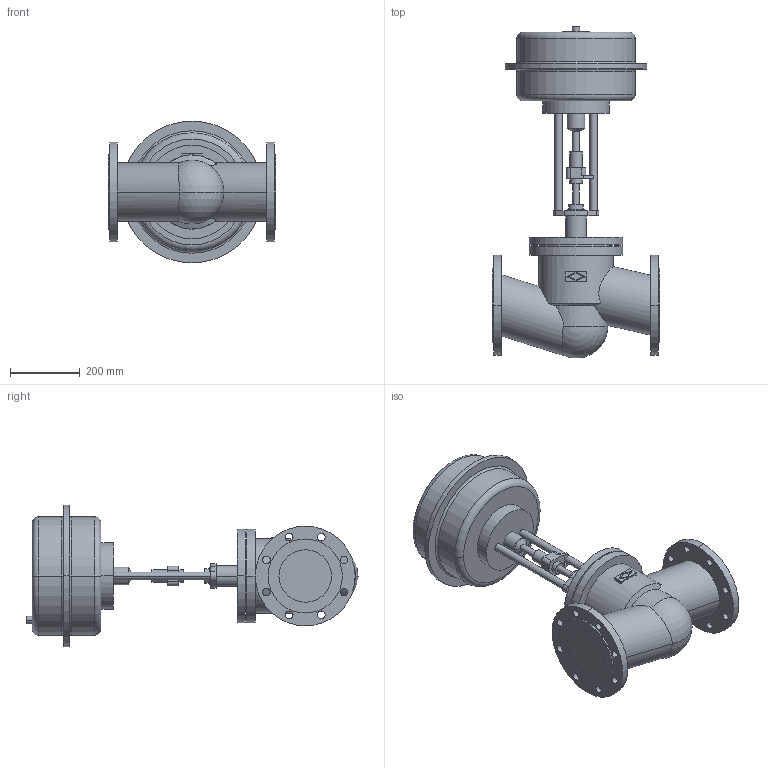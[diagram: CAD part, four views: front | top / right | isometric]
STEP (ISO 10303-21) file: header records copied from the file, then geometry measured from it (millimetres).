
FILE_DESCRIPTION(('OneSpaceDesigner STEP Export'),'2;1');
FILE_NAME('c000003114.stp','2007-01-16T10:28:10',(''),(''),'OneSpace Designer STEP processor for AP214 (Solid Model)','OneSpace Designer 14.00B 27-May-2006 (C) CoCreate Software GmbH','');
FILE_SCHEMA(('AUTOMOTIVE_DESIGN { 1 0 10303 214 1 1 1 1 }'));
Length unit declared in the file: millimetre
Products named in the file (2): 1; 2
Bounding box: 480 x 948.77 x 405 mm (x, y, z)
Volume: 39604202.1 mm3; surface area: 1294392.8 mm2
Topology: 2 solids, 2 shells, 172 faces, 412 edges, 269 vertices
Faces by surface type: cylinder 96, plane 60, torus 10, cone 4, sphere 2
Entity records: 4741 total; most frequent: CARTESIAN_POINT 1030, ORIENTED_EDGE 820, DIRECTION 669, EDGE_CURVE 410, VERTEX_POINT 269, AXIS2_PLACEMENT_3D 245, EDGE_LOOP 231, VECTOR 179
